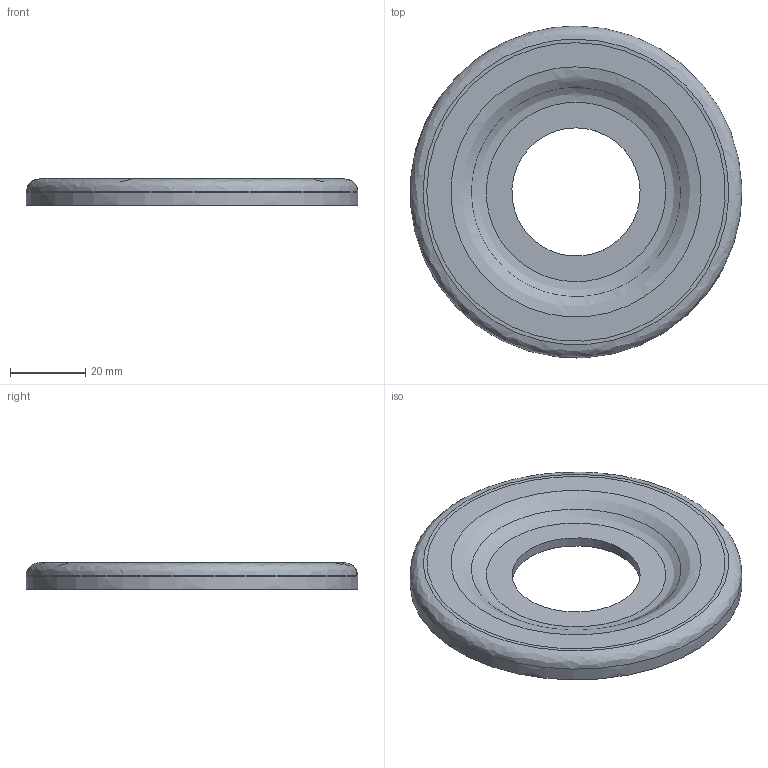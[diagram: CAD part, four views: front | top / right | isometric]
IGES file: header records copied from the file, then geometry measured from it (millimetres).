
Start section: JAMA-IS VERSION  1.0
Global section: file name: E:\tools-models\その他メーカー2\INOAC車輪\7月\HP-100WJ\HP-100WJ-11.igs; native system: CAM-TOOL; preprocessor: C3out Version 11.1.1.50212 (2015/02/12); author: NONE; organization: NONE; date: 200704.164806; units: millimetre
Bounding box: 88 x 88 x 7 mm (x, y, z)
Surface area: 13578.7 mm2 (no closed solid volume)
Topology: 0 solids, 0 shells, 16 faces, 64 edges, 64 vertices
Faces by surface type: bspline 16
